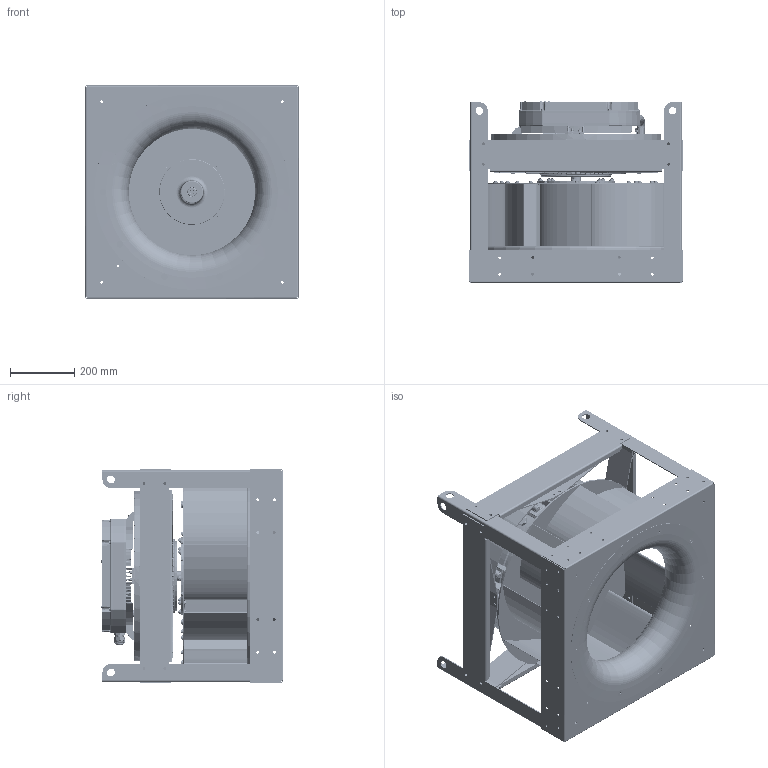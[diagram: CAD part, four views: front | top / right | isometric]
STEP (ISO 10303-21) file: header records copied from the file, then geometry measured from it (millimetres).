
FILE_DESCRIPTION (( 'STEP AP214' ), '1' );
FILE_NAME ('655774.STEP', '2026-04-07T20:31:37', ( '' ), ( '' ), 'SwSTEP 2.0', 'SolidWorks 2023', '' );
FILE_SCHEMA (( 'AUTOMOTIVE_DESIGN' ));
Length unit declared in the file: inch
Products named in the file (18): 651583_651583; SXP24 INLET ASSY_655568; 925959CS_925959CS; SXP24 INLET_651355; 651584_651584; SXP24 WHEEL ASSY_655674; SXPI STRAP_651579; SXP24 BAFFLE_682867; 941044_941044; SXP24-9 FP_651374; 941457_941457; 681533_681533; 655774; 941456_941456; SXP24 BLADE_651372; SXP24-9 BP_651497; 651582_651582; SXP24 WHEEL WELDMENT_655673
Assembly tree (86 placements, depth 4):
  655774
    651582_651582
    651584_651584  x4
    651583_651583  x4
    SXPI STRAP_651579  x4
    925959CS_925959CS
    SXP24 WHEEL ASSY_655674
      SXP24 WHEEL WELDMENT_655673
        SXP24-9 FP_651374
        SXP24 BLADE_651372  x9
        SXP24-9 BP_651497
        941044_941044  x36
      681533_681533
      941456_941456  x8
      941457_941457  x8
    SXP24 INLET ASSY_655568
      SXP24 INLET_651355
      SXP24 BAFFLE_682867  x4
Bounding box: 662.27 x 567.06 x 662.27 mm (x, y, z)
Volume: 8698865.3 mm3; surface area: 6963424.1 mm2
Topology: 82 solids, 374 shells, 6430 faces, 18791 edges, 12577 vertices
Faces by surface type: cylinder 1837, plane 1722, bspline 1409, cone 1053, torus 317, sphere 92
Full cylindrical faces by diameter (mm): 2.9 x2, 4.762 x1, 4.763 x17, 5.105 x16, 5.156 x10, 6 x37, 6.35 x46, 7 x5, 7.137 x64, 7.544 x1, 7.937 x3, 7.938 x1, 7.95 x2, 8.5 x1, 8.738 x87, 9 x4, 9.73 x8, 10 x8, 10.1 x1, 11.8 x16, 12.5 x1, 12.6 x1, 13 x15, 13.208 x44, 14 x1, 15.088 x8, 17.462 x2, 17.463 x2, 20.32 x10, 23.5 x1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
Entity records: 272089 total; most frequent: CARTESIAN_POINT 178946, ORIENTED_EDGE 18056, DIRECTION 16939, EDGE_CURVE 11416, VERTEX_POINT 8198, AXIS2_PLACEMENT_3D 6944, EDGE_LOOP 4937, CIRCLE 4128
